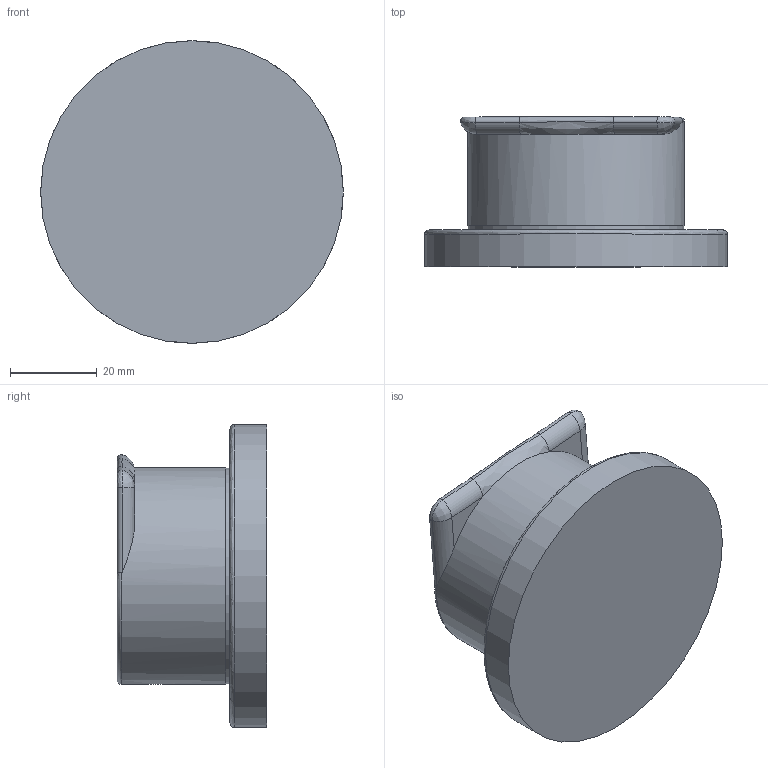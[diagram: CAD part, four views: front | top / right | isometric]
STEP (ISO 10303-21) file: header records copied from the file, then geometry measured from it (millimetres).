
FILE_DESCRIPTION (( 'STEP AP203' ), '1' );
FILE_NAME ('802296 x architetti.STEP', '2023-07-03T15:26:24', ( '' ), ( '' ), 'SwSTEP 2.0', 'SolidWorks 2020', '' );
FILE_SCHEMA (( 'CONFIG_CONTROL_DESIGN' ));
Length unit declared in the file: millimetre
Products named in the file (1): 802296 x architetti
Bounding box: 69.8 x 34.5 x 69.8 mm (x, y, z)
Volume: 84478.9 mm3; surface area: 14379 mm2
Topology: 1 solids, 1 shells, 29 faces, 59 edges, 36 vertices
Faces by surface type: cylinder 14, bspline 8, plane 7
Full cylindrical faces by diameter (mm): 5.2 x1, 49.8 x1, 50 x1, 50.6 x1, 69.8 x1
Entity records: 1308 total; most frequent: CARTESIAN_POINT 703, DIRECTION 104, ORIENTED_EDGE 102, EDGE_CURVE 51, AXIS2_PLACEMENT_3D 46, EDGE_LOOP 39, FACE_OUTER_BOUND 35, VERTEX_POINT 34
